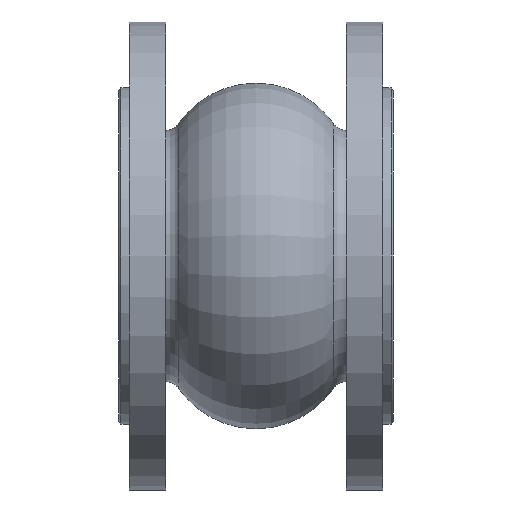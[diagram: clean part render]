
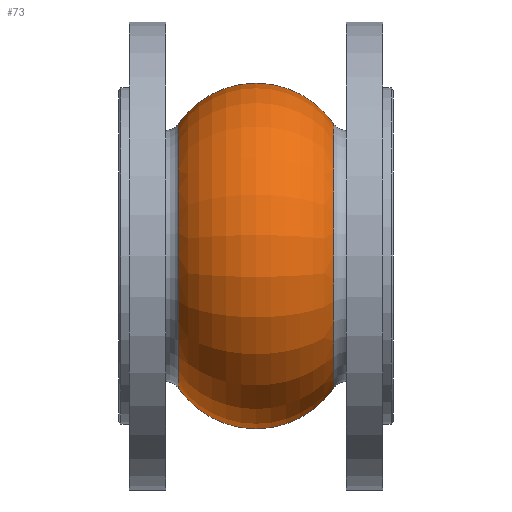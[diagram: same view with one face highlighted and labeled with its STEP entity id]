
A CAD part, front view. The second image highlights one B-rep face of the part: STEP entity #73.
In plain terms, the highlighted toroidal (fillet/blend) face has major radius 36.772 mm and minor radius 44.456 mm.
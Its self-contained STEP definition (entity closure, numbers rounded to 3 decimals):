
#11 = EDGE_LOOP ( 'NONE', ( #36, #35, #69, #45 ) ) ;
#35 = ORIENTED_EDGE ( 'NONE', *, *, #2277, .T. ) ;
#36 = ORIENTED_EDGE ( 'NONE', *, *, #2265, .F. ) ;
#45 = ORIENTED_EDGE ( 'NONE', *, *, #2269, .F. ) ;
#69 = ORIENTED_EDGE ( 'NONE', *, *, #2284, .T. ) ;
#73 = ADVANCED_FACE ( 'NONE', ( #424 ), #422, .T. ) ;
#418 = DIRECTION ( 'NONE',  ( 0., 0., 1. ) ) ;
#419 = DIRECTION ( 'NONE',  ( -1., 0., 0. ) ) ;
#422 = TOROIDAL_SURFACE ( 'NONE', #427, 36.772, 44.456 ) ;
#424 = FACE_OUTER_BOUND ( 'NONE', #11, .T. ) ;
#426 = CARTESIAN_POINT ( 'NONE',  ( 0., 0., 0. ) ) ;
#427 = AXIS2_PLACEMENT_3D ( 'NONE', #426, #419, #418 ) ;
#1355 = CIRCLE ( 'NONE', #1387, 44.456 ) ;
#1387 = AXIS2_PLACEMENT_3D ( 'NONE', #1404, #1430, #1419 ) ;
#1404 = CARTESIAN_POINT ( 'NONE',  ( 0., 0., 36.772 ) ) ;
#1419 = DIRECTION ( 'NONE',  ( 0., 0., -1. ) ) ;
#1430 = DIRECTION ( 'NONE',  ( 0., -1., 0. ) ) ;
#1545 = AXIS2_PLACEMENT_3D ( 'NONE', #1565, #1564, #1563 ) ;
#1551 = CIRCLE ( 'NONE', #1545, 44.456 ) ;
#1563 = DIRECTION ( 'NONE',  ( 0., 0., 1. ) ) ;
#1564 = DIRECTION ( 'NONE',  ( 0., 1., 0. ) ) ;
#1565 = CARTESIAN_POINT ( 'NONE',  ( 0., 0., -36.772 ) ) ;
#1574 = CARTESIAN_POINT ( 'NONE',  ( -36.514, 0., -62.131 ) ) ;
#1608 = AXIS2_PLACEMENT_3D ( 'NONE', #1614, #1613, #1612 ) ;
#1612 = DIRECTION ( 'NONE',  ( 0., 0., 1. ) ) ;
#1613 = DIRECTION ( 'NONE',  ( -1., 0., 0. ) ) ;
#1614 = CARTESIAN_POINT ( 'NONE',  ( -36.514, 0., 0. ) ) ;
#1617 = DIRECTION ( 'NONE',  ( 0., 0., 1. ) ) ;
#1618 = DIRECTION ( 'NONE',  ( -1., 0., 0. ) ) ;
#1619 = CARTESIAN_POINT ( 'NONE',  ( 36.514, 0., 0. ) ) ;
#1626 = CIRCLE ( 'NONE', #1608, 62.131 ) ;
#1632 = AXIS2_PLACEMENT_3D ( 'NONE', #1619, #1618, #1617 ) ;
#1636 = CARTESIAN_POINT ( 'NONE',  ( 36.514, 0., -62.131 ) ) ;
#1640 = CIRCLE ( 'NONE', #1632, 62.131 ) ;
#1698 = CARTESIAN_POINT ( 'NONE',  ( 36.514, 0., 62.131 ) ) ;
#1749 = CARTESIAN_POINT ( 'NONE',  ( -36.514, 0., 62.131 ) ) ;
#2251 = VERTEX_POINT ( 'NONE', #1574 ) ;
#2265 = EDGE_CURVE ( 'NONE', #2278, #2251, #1551, .T. ) ;
#2269 = EDGE_CURVE ( 'NONE', #2251, #2307, #1626, .T. ) ;
#2277 = EDGE_CURVE ( 'NONE', #2278, #2312, #1640, .T. ) ;
#2278 = VERTEX_POINT ( 'NONE', #1636 ) ;
#2284 = EDGE_CURVE ( 'NONE', #2312, #2307, #1355, .T. ) ;
#2307 = VERTEX_POINT ( 'NONE', #1749 ) ;
#2312 = VERTEX_POINT ( 'NONE', #1698 ) ;
